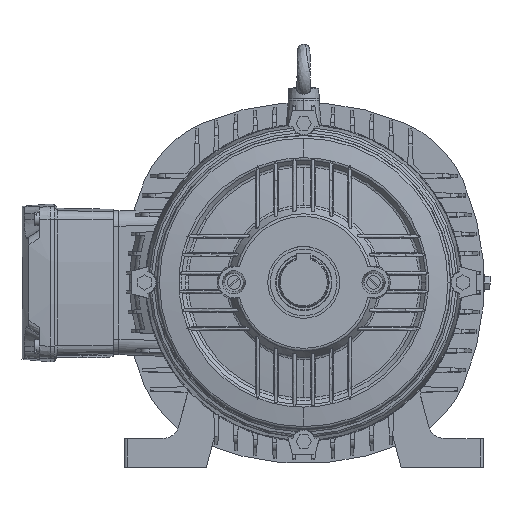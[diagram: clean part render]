
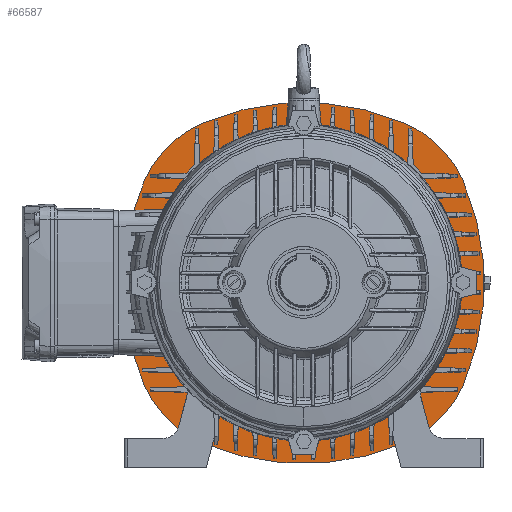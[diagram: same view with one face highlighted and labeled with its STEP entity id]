
A CAD part, top view. The second image highlights one B-rep face of the part: STEP entity #66587.
In plain terms, the highlighted planar face has unit normal (0, 0, 1).
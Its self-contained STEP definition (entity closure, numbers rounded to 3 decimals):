
#9502 = CARTESIAN_POINT ( 'NONE',  ( -176., 0., -152.1 ) ) ;
#9667 = CARTESIAN_POINT ( 'NONE',  ( -155.756, 98.55, -152.1 ) ) ;
#9669 = DIRECTION ( 'NONE',  ( -1., 0., 0. ) ) ;
#9670 = DIRECTION ( 'NONE',  ( 0., 0., -1. ) ) ;
#9671 = CARTESIAN_POINT ( 'NONE',  ( 74., 0., -152.1 ) ) ;
#9672 = AXIS2_PLACEMENT_3D ( 'NONE', #9671, #9670, #9669 ) ;
#9673 = CIRCLE ( 'NONE', #9672, 250. ) ;
#18398 = CARTESIAN_POINT ( 'NONE',  ( 151.5, 0., -152.1 ) ) ;
#18418 = DIRECTION ( 'NONE',  ( -1., 0., 0. ) ) ;
#18419 = DIRECTION ( 'NONE',  ( 0., 0., -1. ) ) ;
#18420 = CARTESIAN_POINT ( 'NONE',  ( 0., 0., -152.1 ) ) ;
#18421 = AXIS2_PLACEMENT_3D ( 'NONE', #18420, #18419, #18418 ) ;
#18430 = CIRCLE ( 'NONE', #18421, 151.5 ) ;
#18479 = CARTESIAN_POINT ( 'NONE',  ( -151.5, 0., -152.1 ) ) ;
#23694 = CARTESIAN_POINT ( 'NONE',  ( 98.55, -155.756, -152.1 ) ) ;
#24242 = DIRECTION ( 'NONE',  ( -1., 0., 0. ) ) ;
#24243 = DIRECTION ( 'NONE',  ( 0., 0., -1. ) ) ;
#24244 = CARTESIAN_POINT ( 'NONE',  ( 0., 74., -152.1 ) ) ;
#24245 = AXIS2_PLACEMENT_3D ( 'NONE', #24244, #24243, #24242 ) ;
#24247 = CIRCLE ( 'NONE', #24245, 250. ) ;
#25552 = DIRECTION ( 'NONE',  ( -1., 0., 0. ) ) ;
#25553 = DIRECTION ( 'NONE',  ( 0., 0., -1. ) ) ;
#25554 = CARTESIAN_POINT ( 'NONE',  ( 27.791, 9.209, -152.1 ) ) ;
#25555 = AXIS2_PLACEMENT_3D ( 'NONE', #25554, #25553, #25552 ) ;
#25561 = PLANE ( 'NONE',  #25555 ) ;
#25564 = FACE_BOUND ( 'NONE', #67080, .T. ) ;
#25565 = FACE_OUTER_BOUND ( 'NONE', #66135, .T. ) ;
#26354 = DIRECTION ( 'NONE',  ( -1., 0., 0. ) ) ;
#26355 = DIRECTION ( 'NONE',  ( 0., 0., -1. ) ) ;
#26356 = CARTESIAN_POINT ( 'NONE',  ( 0., 0., -152.1 ) ) ;
#26357 = AXIS2_PLACEMENT_3D ( 'NONE', #26356, #26355, #26354 ) ;
#26358 = CIRCLE ( 'NONE', #26357, 151.5 ) ;
#33229 = CARTESIAN_POINT ( 'NONE',  ( -98.55, 155.756, -152.1 ) ) ;
#33230 = DIRECTION ( 'NONE',  ( -1., 0., 0. ) ) ;
#33231 = DIRECTION ( 'NONE',  ( 0., 0., -1. ) ) ;
#33232 = AXIS2_PLACEMENT_3D ( 'NONE', #33239, #33231, #33230 ) ;
#33233 = CIRCLE ( 'NONE', #33232, 250. ) ;
#33239 = CARTESIAN_POINT ( 'NONE',  ( 0., -74., -152.1 ) ) ;
#33251 = CARTESIAN_POINT ( 'NONE',  ( -74., 0., -152.1 ) ) ;
#33252 = AXIS2_PLACEMENT_3D ( 'NONE', #33251, #33317, #33316 ) ;
#33257 = CIRCLE ( 'NONE', #33252, 250. ) ;
#33274 = CARTESIAN_POINT ( 'NONE',  ( 98.55, 155.756, -152.1 ) ) ;
#33275 = DIRECTION ( 'NONE',  ( -1., 0., 0. ) ) ;
#33276 = DIRECTION ( 'NONE',  ( 0., 0., -1. ) ) ;
#33277 = CARTESIAN_POINT ( 'NONE',  ( 55.582, 55.582, -152.1 ) ) ;
#33278 = AXIS2_PLACEMENT_3D ( 'NONE', #33277, #33276, #33275 ) ;
#33279 = CIRCLE ( 'NONE', #33278, 109. ) ;
#33285 = CARTESIAN_POINT ( 'NONE',  ( -98.55, -155.756, -152.1 ) ) ;
#33286 = DIRECTION ( 'NONE',  ( -1., 0., 0. ) ) ;
#33287 = DIRECTION ( 'NONE',  ( 0., 0., -1. ) ) ;
#33288 = AXIS2_PLACEMENT_3D ( 'NONE', #33294, #33287, #33286 ) ;
#33289 = CIRCLE ( 'NONE', #33288, 109. ) ;
#33294 = CARTESIAN_POINT ( 'NONE',  ( -55.582, -55.582, -152.1 ) ) ;
#33314 = CARTESIAN_POINT ( 'NONE',  ( 155.756, -98.55, -152.1 ) ) ;
#33315 = CARTESIAN_POINT ( 'NONE',  ( 155.756, 98.55, -152.1 ) ) ;
#33316 = DIRECTION ( 'NONE',  ( -1., 0., 0. ) ) ;
#33317 = DIRECTION ( 'NONE',  ( 0., 0., -1. ) ) ;
#33374 = DIRECTION ( 'NONE',  ( -1., 0., 0. ) ) ;
#33375 = DIRECTION ( 'NONE',  ( 0., 0., -1. ) ) ;
#33376 = CARTESIAN_POINT ( 'NONE',  ( 74., 0., -152.1 ) ) ;
#33377 = AXIS2_PLACEMENT_3D ( 'NONE', #33376, #33375, #33374 ) ;
#33378 = CIRCLE ( 'NONE', #33377, 250. ) ;
#33381 = CARTESIAN_POINT ( 'NONE',  ( -155.756, -98.55, -152.1 ) ) ;
#33406 = DIRECTION ( 'NONE',  ( -1., 0., 0. ) ) ;
#33407 = DIRECTION ( 'NONE',  ( 0., 0., -1. ) ) ;
#33408 = CARTESIAN_POINT ( 'NONE',  ( -55.582, 55.582, -152.1 ) ) ;
#33409 = AXIS2_PLACEMENT_3D ( 'NONE', #33408, #33407, #33406 ) ;
#33419 = CIRCLE ( 'NONE', #33409, 109. ) ;
#37836 = EDGE_CURVE ( 'NONE', #41175, #65549, #62052, .T. ) ;
#41144 = EDGE_CURVE ( 'NONE', #41145, #41155, #33233, .T. ) ;
#41145 = VERTEX_POINT ( 'NONE', #33229 ) ;
#41154 = EDGE_CURVE ( 'NONE', #41155, #41172, #33279, .T. ) ;
#41155 = VERTEX_POINT ( 'NONE', #33274 ) ;
#41171 = EDGE_CURVE ( 'NONE', #41172, #41175, #33257, .T. ) ;
#41172 = VERTEX_POINT ( 'NONE', #33315 ) ;
#41175 = VERTEX_POINT ( 'NONE', #33314 ) ;
#41189 = EDGE_CURVE ( 'NONE', #41190, #41209, #33289, .T. ) ;
#41190 = VERTEX_POINT ( 'NONE', #33285 ) ;
#41209 = VERTEX_POINT ( 'NONE', #33381 ) ;
#41211 = EDGE_CURVE ( 'NONE', #41209, #46664, #33378, .T. ) ;
#41226 = EDGE_CURVE ( 'NONE', #46717, #41145, #33419, .T. ) ;
#46664 = VERTEX_POINT ( 'NONE', #9502 ) ;
#46716 = EDGE_CURVE ( 'NONE', #46664, #46717, #9673, .T. ) ;
#46717 = VERTEX_POINT ( 'NONE', #9667 ) ;
#49409 = VERTEX_POINT ( 'NONE', #18398 ) ;
#49430 = EDGE_CURVE ( 'NONE', #49432, #49409, #18430, .T. ) ;
#49432 = VERTEX_POINT ( 'NONE', #18479 ) ;
#62048 = DIRECTION ( 'NONE',  ( -1., 0., 0. ) ) ;
#62049 = DIRECTION ( 'NONE',  ( 0., 0., -1. ) ) ;
#62050 = CARTESIAN_POINT ( 'NONE',  ( 55.582, -55.582, -152.1 ) ) ;
#62051 = AXIS2_PLACEMENT_3D ( 'NONE', #62050, #62049, #62048 ) ;
#62052 = CIRCLE ( 'NONE', #62051, 109. ) ;
#65549 = VERTEX_POINT ( 'NONE', #23694 ) ;
#65758 = ORIENTED_EDGE ( 'NONE', *, *, #41226, .F. ) ;
#65821 = EDGE_CURVE ( 'NONE', #65549, #41190, #24247, .T. ) ;
#65968 = ORIENTED_EDGE ( 'NONE', *, *, #41144, .F. ) ;
#66009 = ORIENTED_EDGE ( 'NONE', *, *, #37836, .F. ) ;
#66018 = ORIENTED_EDGE ( 'NONE', *, *, #41154, .F. ) ;
#66019 = ORIENTED_EDGE ( 'NONE', *, *, #41171, .F. ) ;
#66135 = EDGE_LOOP ( 'NONE', ( #66009, #66019, #66018, #65968, #65758, #67184, #67163, #67143, #67145 ) ) ;
#66587 = ADVANCED_FACE ( 'NONE', ( #25565, #25564 ), #25561, .F. ) ;
#66937 = ORIENTED_EDGE ( 'NONE', *, *, #67020, .T. ) ;
#66938 = ORIENTED_EDGE ( 'NONE', *, *, #49430, .T. ) ;
#67020 = EDGE_CURVE ( 'NONE', #49409, #49432, #26358, .T. ) ;
#67080 = EDGE_LOOP ( 'NONE', ( #66938, #66937 ) ) ;
#67143 = ORIENTED_EDGE ( 'NONE', *, *, #41189, .F. ) ;
#67145 = ORIENTED_EDGE ( 'NONE', *, *, #65821, .F. ) ;
#67163 = ORIENTED_EDGE ( 'NONE', *, *, #41211, .F. ) ;
#67184 = ORIENTED_EDGE ( 'NONE', *, *, #46716, .F. ) ;
